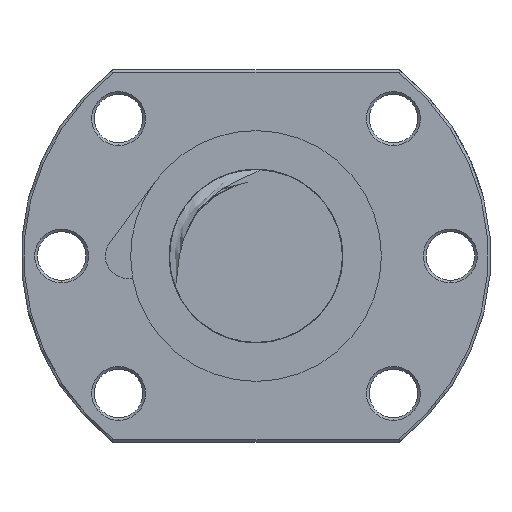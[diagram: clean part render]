
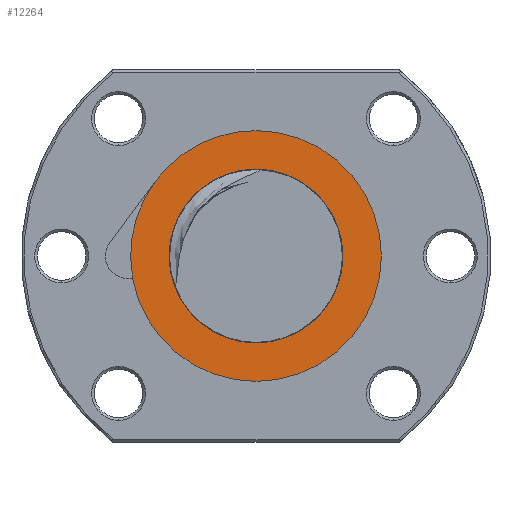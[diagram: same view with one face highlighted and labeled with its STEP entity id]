
A CAD part, left-side view. The second image highlights one B-rep face of the part: STEP entity #12264.
In plain terms, the highlighted planar face has unit normal (-1, 0, 0).
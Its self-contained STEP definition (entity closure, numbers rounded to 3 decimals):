
#11628 = EDGE_CURVE ( 'NONE', #11629, #11631, #20594, .T. ) ;
#11629 = VERTEX_POINT ( 'NONE', #20590 ) ;
#11631 = VERTEX_POINT ( 'NONE', #20589 ) ;
#11984 = VERTEX_POINT ( 'NONE', #21517 ) ;
#11986 = EDGE_CURVE ( 'NONE', #11984, #11987, #21515, .T. ) ;
#11987 = VERTEX_POINT ( 'NONE', #21516 ) ;
#12142 = EDGE_CURVE ( 'NONE', #11631, #12198, #21752, .T. ) ;
#12198 = VERTEX_POINT ( 'NONE', #21740 ) ;
#12261 = EDGE_CURVE ( 'NONE', #11987, #11984, #21695, .T. ) ;
#12264 = ADVANCED_FACE ( 'NONE', ( #21678, #21677 ), #21676, .T. ) ;
#12266 = EDGE_LOOP ( 'NONE', ( #12268, #12272, #12278, #12280 ) ) ;
#12268 = ORIENTED_EDGE ( 'NONE', *, *, #12270, .T. ) ;
#12270 = EDGE_CURVE ( 'NONE', #12198, #12336, #21671, .T. ) ;
#12272 = ORIENTED_EDGE ( 'NONE', *, *, #12334, .T. ) ;
#12278 = ORIENTED_EDGE ( 'NONE', *, *, #11628, .T. ) ;
#12280 = ORIENTED_EDGE ( 'NONE', *, *, #12142, .T. ) ;
#12283 = EDGE_LOOP ( 'NONE', ( #12285, #12287 ) ) ;
#12285 = ORIENTED_EDGE ( 'NONE', *, *, #12261, .F. ) ;
#12287 = ORIENTED_EDGE ( 'NONE', *, *, #11986, .F. ) ;
#12334 = EDGE_CURVE ( 'NONE', #12336, #11629, #21634, .T. ) ;
#12336 = VERTEX_POINT ( 'NONE', #21630 ) ;
#20589 = CARTESIAN_POINT ( 'NONE',  ( -177.8, 0., 23.225 ) ) ;
#20590 = CARTESIAN_POINT ( 'NONE',  ( -177.8, 0., -23.225 ) ) ;
#20591 = DIRECTION ( 'NONE',  ( 0., 0., 1. ) ) ;
#20592 = DIRECTION ( 'NONE',  ( -1., 0., 0. ) ) ;
#20593 = AXIS2_PLACEMENT_3D ( 'NONE', #20600, #20592, #20591 ) ;
#20594 = CIRCLE ( 'NONE', #20593, 23.225 ) ;
#20600 = CARTESIAN_POINT ( 'NONE',  ( -177.8, 0., 0. ) ) ;
#21511 = DIRECTION ( 'NONE',  ( 0., 0., 1. ) ) ;
#21512 = DIRECTION ( 'NONE',  ( -1., 0., 0. ) ) ;
#21513 = CARTESIAN_POINT ( 'NONE',  ( -177.8, 0., 0. ) ) ;
#21514 = AXIS2_PLACEMENT_3D ( 'NONE', #21513, #21512, #21511 ) ;
#21515 = CIRCLE ( 'NONE', #21514, 16.1 ) ;
#21516 = CARTESIAN_POINT ( 'NONE',  ( -177.8, 0., 16.1 ) ) ;
#21517 = CARTESIAN_POINT ( 'NONE',  ( -177.8, 0., -16.1 ) ) ;
#21630 = CARTESIAN_POINT ( 'NONE',  ( -177.8, 22.863, -4.085 ) ) ;
#21631 = DIRECTION ( 'NONE',  ( 0., 0., 1. ) ) ;
#21632 = DIRECTION ( 'NONE',  ( -1., 0., 0. ) ) ;
#21633 = AXIS2_PLACEMENT_3D ( 'NONE', #21639, #21632, #21631 ) ;
#21634 = CIRCLE ( 'NONE', #21633, 23.225 ) ;
#21639 = CARTESIAN_POINT ( 'NONE',  ( -177.8, 0., 0. ) ) ;
#21667 = DIRECTION ( 'NONE',  ( 0., 0., 1. ) ) ;
#21668 = DIRECTION ( 'NONE',  ( -1., 0., 0. ) ) ;
#21669 = CARTESIAN_POINT ( 'NONE',  ( -177.8, 0., 0. ) ) ;
#21670 = AXIS2_PLACEMENT_3D ( 'NONE', #21669, #21668, #21667 ) ;
#21671 = CIRCLE ( 'NONE', #21670, 23.225 ) ;
#21672 = DIRECTION ( 'NONE',  ( 0., 0., 1. ) ) ;
#21673 = DIRECTION ( 'NONE',  ( -1., 0., 0. ) ) ;
#21674 = CARTESIAN_POINT ( 'NONE',  ( -177.8, 0., 16.1 ) ) ;
#21675 = AXIS2_PLACEMENT_3D ( 'NONE', #21674, #21673, #21672 ) ;
#21676 = PLANE ( 'NONE',  #21675 ) ;
#21677 = FACE_BOUND ( 'NONE', #12283, .T. ) ;
#21678 = FACE_OUTER_BOUND ( 'NONE', #12266, .T. ) ;
#21679 = DIRECTION ( 'NONE',  ( 0., 0., 1. ) ) ;
#21680 = DIRECTION ( 'NONE',  ( -1., 0., 0. ) ) ;
#21681 = CARTESIAN_POINT ( 'NONE',  ( -177.8, 0., 0. ) ) ;
#21694 = AXIS2_PLACEMENT_3D ( 'NONE', #21681, #21680, #21679 ) ;
#21695 = CIRCLE ( 'NONE', #21694, 16.1 ) ;
#21740 = CARTESIAN_POINT ( 'NONE',  ( -177.8, 18.649, 13.843 ) ) ;
#21749 = DIRECTION ( 'NONE',  ( 0., 0., 1. ) ) ;
#21750 = DIRECTION ( 'NONE',  ( -1., 0., 0. ) ) ;
#21751 = AXIS2_PLACEMENT_3D ( 'NONE', #21775, #21750, #21749 ) ;
#21752 = CIRCLE ( 'NONE', #21751, 23.225 ) ;
#21775 = CARTESIAN_POINT ( 'NONE',  ( -177.8, 0., 0. ) ) ;
